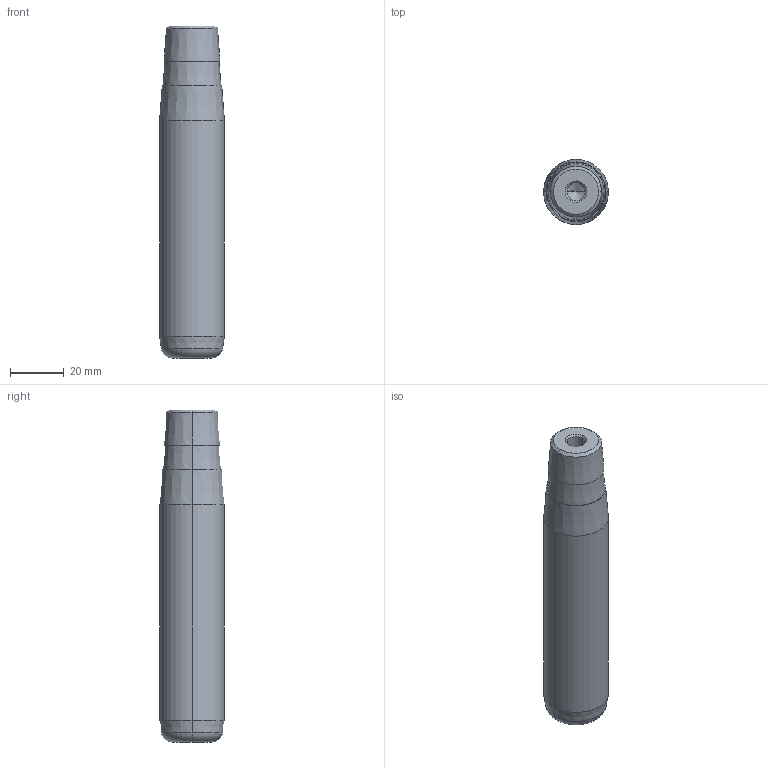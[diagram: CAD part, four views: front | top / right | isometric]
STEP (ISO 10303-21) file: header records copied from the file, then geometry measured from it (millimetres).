
FILE_DESCRIPTION(('CATIA V5 STEP Exchange'),'2;1');
FILE_NAME('C:\Users\Utente\Desktop\IO LAVORO\3D X SITO CF\X SITO\722\722-24x100x123.stp','2021-01-09T08:39:24+00:00',('none'),('none'),'CATIA Version 5 Release 20 GA (IN-10)','CATIA V5 STEP AP203','none');
FILE_SCHEMA(('CONFIG_CONTROL_DESIGN'));
Length unit declared in the file: millimetre
Products named in the file (1): 722-24x100x123
Bounding box: 24 x 24 x 123 mm (x, y, z)
Volume: 49879.8 mm3; surface area: 10598.4 mm2
Topology: 1 solids, 1 shells, 32 faces, 66 edges, 34 vertices
Faces by surface type: cone 22, cylinder 6, plane 2, torus 2
Entity records: 854 total; most frequent: CARTESIAN_POINT 175, DIRECTION 124, ORIENTED_EDGE 124, AXIS2_PLACEMENT_3D 65, EDGE_CURVE 62, EDGE_LOOP 34, VERTEX_POINT 34, ADVANCED_FACE 32
